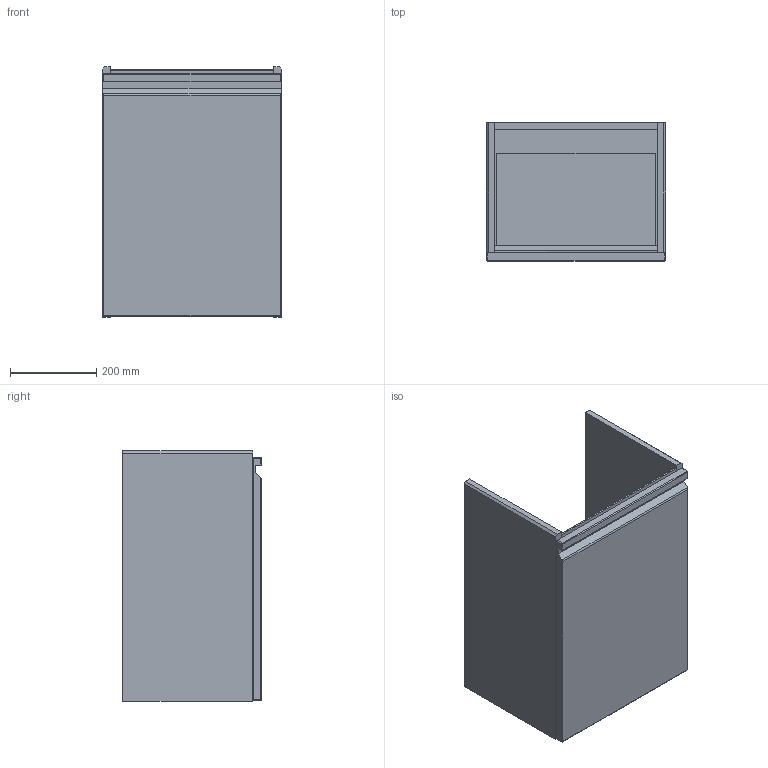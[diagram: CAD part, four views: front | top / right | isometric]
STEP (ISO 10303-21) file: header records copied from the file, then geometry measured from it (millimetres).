
FILE_DESCRIPTION(/* description */ (''),/* implementation_level */ '2;1');
FILE_NAME(/* name */ '3DC427~1',/* time_stamp */ '2018-05-14T08:56:00+02:00',/* author */ (''),/* organization */ (''),/* preprocessor_version */ 'ST-DEVELOPER v15',/* originating_system */ '',/* authorisation */ '');
FILE_SCHEMA (('AUTOMOTIVE_DESIGN'));
Length unit declared in the file: millimetre
Products named in the file (8): Document; Parte27; Parte25; Parte11; Parte9; Parte7; Parte5; Parte3
Assembly tree (7 placements, depth 2):
  Document
    Parte27
    Parte25
    Parte11
    Parte9
    Parte7
    Parte5
    Parte3
Bounding box: 415 x 321 x 580 mm (x, y, z)
Volume: 13972418.2 mm3; surface area: 1807554.3 mm2
Topology: 7 solids, 7 shells, 78 faces, 178 edges, 108 vertices
Faces by surface type: plane 48, bspline 30
Entity records: 4008 total; most frequent: CARTESIAN_POINT 2566, ORIENTED_EDGE 344, EDGE_CURVE 172, B_SPLINE_CURVE_WITH_KNOTS 138, VERTEX_POINT 108, DIRECTION 92, ADVANCED_FACE 78, FACE_OUTER_BOUND 78
